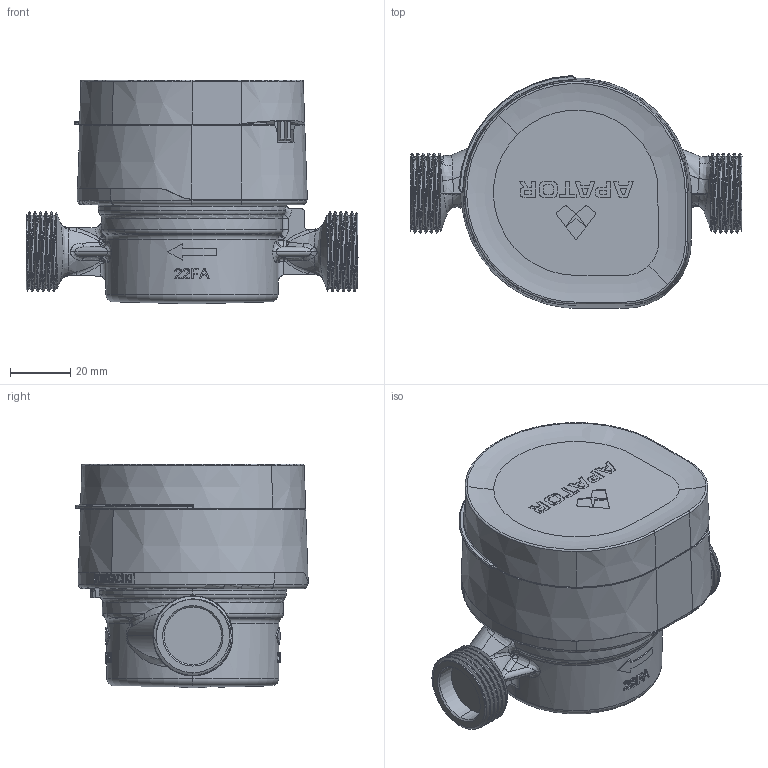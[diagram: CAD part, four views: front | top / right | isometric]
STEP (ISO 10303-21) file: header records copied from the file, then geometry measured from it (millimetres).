
FILE_DESCRIPTION (( 'STEP AP214' ), '1' );
FILE_NAME ('JS2,5-05.STEP', '2022-09-14T10:54:32', ( '' ), ( '' ), 'SwSTEP 2.0', 'SolidWorks 2019', '' );
FILE_SCHEMA (( 'AUTOMOTIVE_DESIGN' ));
Length unit declared in the file: millimetre
Products named in the file (10): JS2,5-05; Liczyd³o; 9004-750201; js2,5; Part-3117; Part-3118; Part-3116; 9004-750202_zagi﹖a; szklanka; Assembly-1108
Assembly tree (9 placements, depth 3):
  JS2,5-05
    js2,5
    Liczyd³o
    Part-3118
    Assembly-1108
      9004-750201
      9004-750202_zagi﹖a
    Part-3117
    Part-3116
    szklanka
Bounding box: 110 x 77.02 x 74.14 mm (x, y, z)
Volume: 241786.3 mm3; surface area: 96495.2 mm2
Topology: 8 solids, 17 shells, 2520 faces, 6940 edges, 4513 vertices
Faces by surface type: plane 1070, bspline 614, cylinder 467, cone 258, torus 92, sphere 19
Entity records: 148622 total; most frequent: CARTESIAN_POINT 75155, ORIENTED_EDGE 13816, DIRECTION 9879, EDGE_CURVE 6908, VERTEX_POINT 4507, AXIS2_PLACEMENT_3D 3621, EDGE_LOOP 2701, VECTOR 2637
